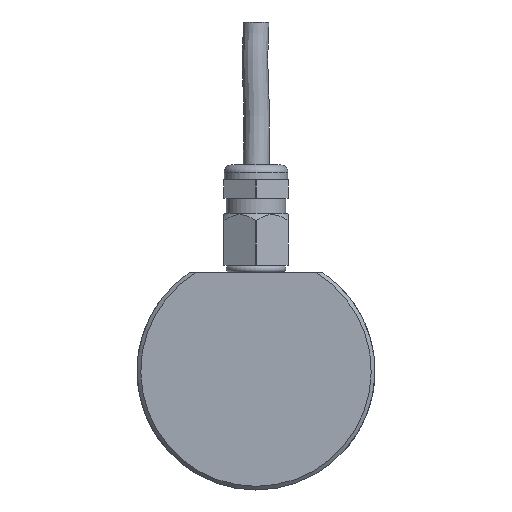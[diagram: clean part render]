
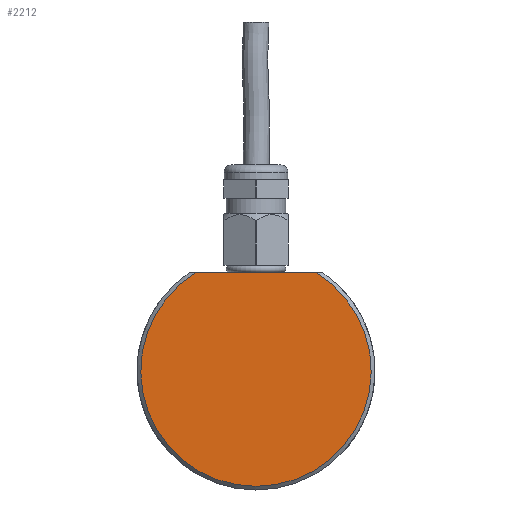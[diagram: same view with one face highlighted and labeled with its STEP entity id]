
A CAD part, left-side view. The second image highlights one B-rep face of the part: STEP entity #2212.
In plain terms, the highlighted planar face has unit normal (-1, 0, 0).
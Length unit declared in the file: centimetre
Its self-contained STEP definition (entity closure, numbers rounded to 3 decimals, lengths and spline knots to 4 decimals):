
#662=VECTOR('',#2507,1.);
#764=LINE('',#3056,#662);
#887=PLANE('',#2336);
#933=CIRCLE('',#2329,1.55);
#1007=VERTEX_POINT('',#3055);
#1008=VERTEX_POINT('',#3057);
#1210=EDGE_CURVE('',#1008,#1007,#764,.T.);
#1215=EDGE_CURVE('',#1008,#1007,#933,.T.);
#1479=ORIENTED_EDGE('',*,*,#1215,.F.);
#1480=ORIENTED_EDGE('',*,*,#1210,.T.);
#1942=EDGE_LOOP('',(#1479,#1480));
#2083=FACE_BOUND('',#1942,.T.);
#2212=ADVANCED_FACE('',(#2083),#887,.T.);
#2329=AXIS2_PLACEMENT_3D('',#3067,#2516,#2517);
#2336=AXIS2_PLACEMENT_3D('',#3076,#2528,$);
#2507=DIRECTION('',(0.,1.,0.));
#2516=DIRECTION('',(1.,0.,0.));
#2517=DIRECTION('',(0.,0.,-1.55));
#2528=DIRECTION('',(-1.,0.,0.));
#3055=CARTESIAN_POINT('',(0.,0.8078,1.3229));
#3056=CARTESIAN_POINT('',(0.,2.775,1.3229));
#3057=CARTESIAN_POINT('',(0.,-0.8078,1.3229));
#3067=CARTESIAN_POINT('',(0.,0.,0.));
#3076=CARTESIAN_POINT('',(0.,0.,-0.4));
